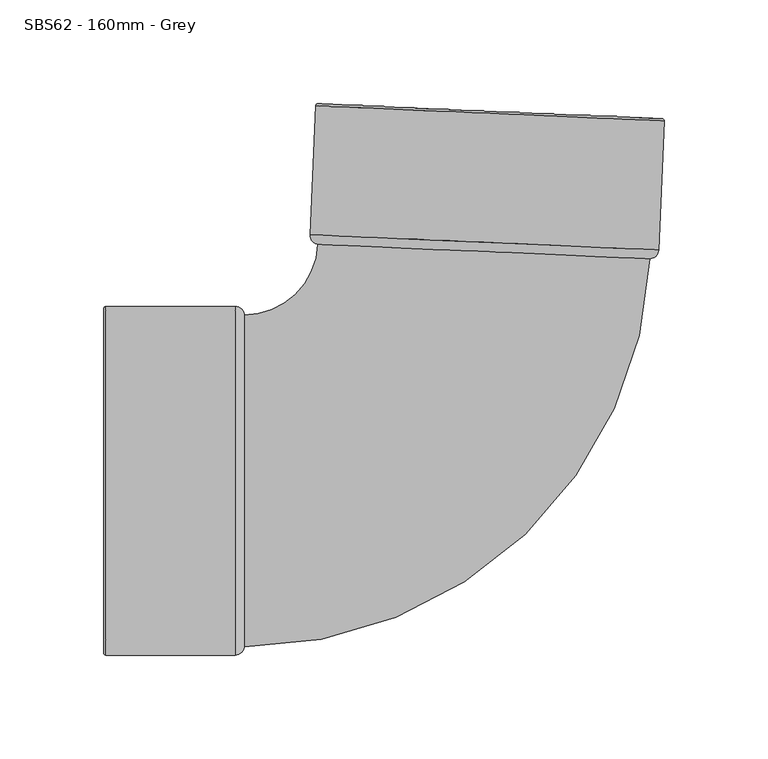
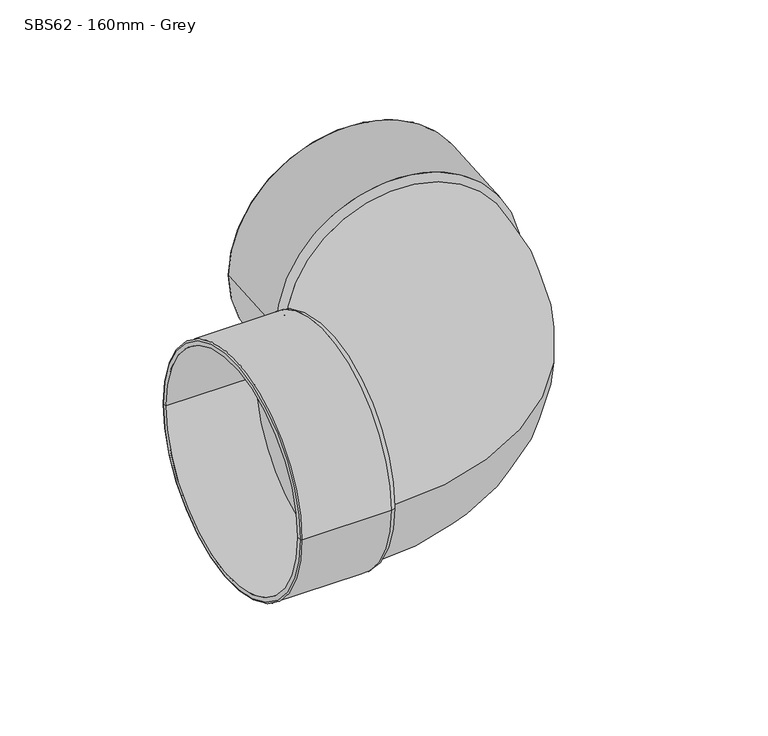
"""IFC4 building model written with IfcOpenShell, lengths in millimetres: pipe fitting geometry, MarleyPlumbingAndDrainage_PipeFitting_DoubleSolventSocket87-5 : SBS62 - 160mm - Grey."""

from ifc_helpers import new_model, si_unit, point, frame, origin, place, context, project, spatial, polyline, circle_curve, ellipse_curve, trimmed, source, transform, mapped, element, save
from ifc_brep_helpers import plane_surface, cylinder_surface, revolved_surface, advanced_brep


def sbs62_160mm_grey_686f7743(model_context):
    return source(origin(), model_context, "Body", "AdvancedBrep", [
        advanced_brep(
        [(-87.1231909, 181.5936193, 0.0), (73.024239, 174.6014315, 0.0), (75.8341634, 174.4787475, 0.0), (-89.9331153, 181.7163032, 0.0), (-89.8799362, 118.4537717, 0.0), (70.2674937, 111.4615839, 0.0), (-9.8062212, 114.9576778, 0.0), (-89.4268421, 113.9297021, 0.0), (69.4218252, 106.9942195, 0.0), (-10.0025085, 110.4619608, 0.0), (-91.0147772, 180.7251426, 0.0), (76.825324, 173.3970855, 0.0), (74.1138294, 111.2936492, 0.0), (-93.7262718, 118.6217063, 0.0)],
        [
            (0, 1, circle_curve(frame((-7.0494759, 178.0975254, 0.0), z_axis=(-0.04361938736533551, -0.9990482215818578, 0.0), x_axis=(0.9990482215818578, -0.04361938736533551, 0.0)), 80.15)),
            (1, 2),
            (2, 3, circle_curve(frame((-7.0494759, 178.0975254, 0.0), z_axis=(0.04361938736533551, 0.9990482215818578, 0.0), x_axis=(0.9990482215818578, -0.04361938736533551, 0.0)), 82.9626013)),
            (3, 0),
            (1, 0, circle_curve(frame((-7.0494759, 178.0975254, 0.0), z_axis=(-0.04361938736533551, -0.9990482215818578, 0.0), x_axis=(0.9990482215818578, -0.04361938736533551, 0.0)), 80.15)),
            (3, 2, circle_curve(frame((-7.0494759, 178.0975254, 0.0), z_axis=(0.04361938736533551, 0.9990482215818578, 0.0), x_axis=(0.9990482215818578, -0.04361938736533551, 0.0)), 82.9626013)),
            (4, 5, circle_curve(frame((-9.8062212, 114.9576778, 0.0), z_axis=(-0.04361938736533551, -0.9990482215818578, 0.0), x_axis=(0.9990482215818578, -0.04361938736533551, 0.0)), 80.15)),
            (5, 1),
            (0, 4),
            (5, 4, circle_curve(frame((-9.8062212, 114.9576778, 0.0), z_axis=(-0.04361938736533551, -0.9990482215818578, 0.0), x_axis=(0.9990482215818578, -0.04361938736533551, 0.0)), 80.15)),
            (6, 5),
            (4, 6),
            (7, 8, circle_curve(frame((-10.0025085, 110.4619608, 0.0), z_axis=(-0.04361938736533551, -0.9990482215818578, 0.0), x_axis=(0.9990482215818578, -0.04361938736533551, 0.0)), 79.5)),
            (8, 9),
            (9, 7),
            (8, 7, circle_curve(frame((-10.0025085, 110.4619608, 0.0), z_axis=(-0.04361938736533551, -0.9990482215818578, 0.0), x_axis=(0.9990482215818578, -0.04361938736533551, 0.0)), 79.5)),
            (10, 11, circle_curve(frame((-7.0947266, 177.0611141, 0.0), z_axis=(-0.04361938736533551, -0.9990482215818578, 0.0), x_axis=(0.9990482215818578, -0.04361938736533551, 0.0)), 84.0)),
            (11, 12),
            (12, 13, circle_curve(frame((-9.8062212, 114.9576778, 0.0), z_axis=(0.04361938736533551, 0.9990482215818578, 0.0), x_axis=(0.9990482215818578, -0.04361938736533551, 0.0)), 84.0)),
            (13, 10),
            (11, 10, circle_curve(frame((-7.0947266, 177.0611141, 0.0), z_axis=(-0.04361938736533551, -0.9990482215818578, 0.0), x_axis=(0.9990482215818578, -0.04361938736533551, 0.0)), 84.0)),
            (13, 12, circle_curve(frame((-9.8062212, 114.9576778, 0.0), z_axis=(0.04361938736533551, 0.9990482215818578, 0.0), x_axis=(0.9990482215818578, -0.04361938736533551, 0.0)), 84.0)),
            (2, 11, circle_curve(frame((75.7889127, 173.4423362, 0.0), z_axis=(0.0, 0.0, -1.0), x_axis=(0.9990482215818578, -0.04361938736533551, 0.0)), 1.0373987)),
            (10, 3, circle_curve(frame((-89.978366, 180.6798919, 0.0), z_axis=(0.0, 0.0, -1.0), x_axis=(-0.9990482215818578, 0.04361938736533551, 0.0)), 1.0373987)),
            (12, 8, circle_curve(frame((69.6181124, 111.4899365, 0.0), z_axis=(0.0, 0.0, -1.0), x_axis=(0.9990482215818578, -0.04361938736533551, 0.0)), 4.5)),
            (7, 13, circle_curve(frame((-89.2305548, 118.4254191, 0.0), z_axis=(0.0, 0.0, -1.0), x_axis=(-0.9990482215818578, 0.04361938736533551, 0.0)), 4.5)),
        ],
        [
            plane_surface(frame((-7.0494759, 178.0975254, 0.0), z_axis=(0.04361938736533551, 0.9990482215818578, 0.0), x_axis=(0.9990482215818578, -0.04361938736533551, 0.0))),
            revolved_surface(polyline([(73.02423901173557, 174.60143150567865, 0.0), (70.2674937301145, 111.4615838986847, 0.0)]), (103.7879636, 2716.6922548, 0.0), (0.04361938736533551, 0.9990482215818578, 0.0)),
            plane_surface(frame((-9.8062212, 114.9576778, 0.0), z_axis=(0.04361938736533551, 0.9990482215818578, 0.0), x_axis=(0.9990482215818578, -0.04361938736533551, 0.0))),
            plane_surface(frame((-10.0025085, 110.4619608, 0.0), z_axis=(-0.04361938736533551, -0.9990482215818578, 0.0), x_axis=(0.9990482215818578, -0.04361938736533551, 0.0))),
            cylinder_surface(frame((103.7879636, 2716.6922548, 0.0), z_axis=(0.04361938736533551, 0.9990482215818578, 0.0), x_axis=(0.9990482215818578, -0.04361938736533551, 0.0)), 84.0),
            revolved_surface(trimmed(ellipse_curve(frame((75.7889127, 173.4423362, 0.0), z_axis=(0.0, 0.0, 1.0), x_axis=(0.9990482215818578, -0.04361938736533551, 0.0)), 1.0373987, 1.0373987), [point((76.825324, 173.3970855, 0.0))], [point((75.8341634, 174.4787475, 0.0))], True, "CARTESIAN"), (103.7879636, 2716.6922548, 0.0), (0.04361938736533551, 0.9990482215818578, 0.0)),
            revolved_surface(trimmed(ellipse_curve(frame((69.6181124, 111.4899365, 0.0), z_axis=(0.0, 0.0, 1.0), x_axis=(0.9990482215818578, -0.04361938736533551, 0.0)), 4.5, 4.5), [point((69.4218252, 106.9942195, 0.0))], [point((74.1138294, 111.2936492, 0.0))], True, "CARTESIAN"), (103.7879636, 2716.6922548, 0.0), (0.04361938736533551, 0.9990482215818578, 0.0)),
        ],
        [
            (0, [[1, 2, 3, 4]]),
            (0, [[5, -4, 6, -2]]),
            (1, [[7, 8, -1, 9]]),
            (1, [[10, -9, -5, -8]]),
            (2, [[11, -7, 12]]),
            (2, [[-12, -10, -11]]),
            (3, [[13, 14, 15]]),
            (3, [[16, -15, -14]]),
            (4, [[17, 18, 19, 20]]),
            (4, [[21, -20, 22, -18]]),
            (5, [[-3, 23, -17, 24]]),
            (5, [[-6, -24, -21, -23]]),
            (6, [[-19, 25, -13, 26]]),
            (6, [[-22, -26, -16, -25]]),
        ],
    ),
        advanced_brep(
        [(-193.0925781, 80.15, 0.0), (-193.0925781, -80.15, 0.0), (-193.0925781, -82.9626013, 0.0), (-193.0925781, 82.9626013, 0.0), (-129.8925781, 80.15, 0.0), (-129.8925781, -80.15, 0.0), (-129.8925781, 0.0, 0.0), (-125.3925781, 79.5, 0.0), (-125.3925781, -79.5, 0.0), (-125.3925781, 0.0, 0.0), (-192.0551794, 84.0, 0.0), (-192.0551794, -84.0, 0.0), (-129.8925781, -84.0, 0.0), (-129.8925781, 84.0, 0.0)],
        [
            (0, 1, circle_curve(frame((-193.0925781, 0.0, 0.0), z_axis=(1.0, 0.0, 0.0), x_axis=(0.0, -1.0, 0.0)), 80.15)),
            (1, 2),
            (2, 3, circle_curve(frame((-193.0925781, 0.0, 0.0), z_axis=(-1.0, 0.0, 0.0), x_axis=(0.0, -1.0, 0.0)), 82.9626013)),
            (3, 0),
            (1, 0, circle_curve(frame((-193.0925781, 0.0, 0.0), z_axis=(1.0, 0.0, 0.0), x_axis=(0.0, -1.0, 0.0)), 80.15)),
            (3, 2, circle_curve(frame((-193.0925781, 0.0, 0.0), z_axis=(-1.0, 0.0, 0.0), x_axis=(0.0, -1.0, 0.0)), 82.9626013)),
            (4, 5, circle_curve(frame((-129.8925781, 0.0, 0.0), z_axis=(1.0, 0.0, 0.0), x_axis=(0.0, -1.0, 0.0)), 80.15)),
            (5, 1),
            (0, 4),
            (5, 4, circle_curve(frame((-129.8925781, 0.0, 0.0), z_axis=(1.0, 0.0, 0.0), x_axis=(0.0, -1.0, 0.0)), 80.15)),
            (6, 5),
            (4, 6),
            (7, 8, circle_curve(frame((-125.3925781, 0.0, 0.0), z_axis=(1.0, 0.0, 0.0), x_axis=(0.0, -1.0, 0.0)), 79.5)),
            (8, 9),
            (9, 7),
            (8, 7, circle_curve(frame((-125.3925781, 0.0, 0.0), z_axis=(1.0, 0.0, 0.0), x_axis=(0.0, -1.0, 0.0)), 79.5)),
            (10, 11, circle_curve(frame((-192.0551794, 0.0, 0.0), z_axis=(1.0, 0.0, 0.0), x_axis=(0.0, -1.0, 0.0)), 84.0)),
            (11, 12),
            (12, 13, circle_curve(frame((-129.8925781, 0.0, 0.0), z_axis=(-1.0, 0.0, 0.0), x_axis=(0.0, -1.0, 0.0)), 84.0)),
            (13, 10),
            (11, 10, circle_curve(frame((-192.0551794, 0.0, 0.0), z_axis=(1.0, 0.0, 0.0), x_axis=(0.0, -1.0, 0.0)), 84.0)),
            (13, 12, circle_curve(frame((-129.8925781, 0.0, 0.0), z_axis=(-1.0, 0.0, 0.0), x_axis=(0.0, -1.0, 0.0)), 84.0)),
            (2, 11, circle_curve(frame((-192.0551794, -82.9626013, 0.0), z_axis=(0.0, 0.0, 1.0), x_axis=(0.0, -1.0, 0.0)), 1.0373987)),
            (10, 3, circle_curve(frame((-192.0551794, 82.9626013, 0.0), z_axis=(0.0, 0.0, 1.0), x_axis=(0.0, 1.0, 0.0)), 1.0373987)),
            (12, 8, circle_curve(frame((-129.8925781, -79.5, 0.0), z_axis=(0.0, 0.0, 1.0), x_axis=(0.0, -1.0, 0.0)), 4.5)),
            (7, 13, circle_curve(frame((-129.8925781, 79.5, 0.0), z_axis=(0.0, 0.0, 1.0), x_axis=(0.0, 1.0, 0.0)), 4.5)),
        ],
        [
            plane_surface(frame((-193.0925781, 0.0, 0.0), z_axis=(-1.0, 0.0, 0.0), x_axis=(0.0, -1.0, 0.0))),
            revolved_surface(polyline([(-193.09257810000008, -80.15, 0.0), (-129.8925780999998, -80.15, 0.0)]), (-2734.1057891, 0.0, 0.0), (-1.0, 0.0, 0.0)),
            plane_surface(frame((-129.8925781, 0.0, 0.0), z_axis=(-1.0, 0.0, 0.0), x_axis=(0.0, -1.0, 0.0))),
            plane_surface(frame((-125.3925781, 0.0, 0.0), z_axis=(1.0, 0.0, 0.0), x_axis=(0.0, -1.0, 0.0))),
            cylinder_surface(frame((-2734.1057891, 0.0, 0.0), z_axis=(-1.0, 0.0, 0.0), x_axis=(0.0, -1.0, 0.0)), 84.0),
            revolved_surface(trimmed(ellipse_curve(frame((-192.0551794, -82.9626013, 0.0), z_axis=(0.0, 0.0, -1.0), x_axis=(0.0, -1.0, 0.0)), 1.0373987, 1.0373987), [point((-192.0551794, -84.0, 0.0))], [point((-193.0925781, -82.9626013, 0.0))], True, "CARTESIAN"), (-2734.1057891, 0.0, 0.0), (-1.0, 0.0, 0.0)),
            revolved_surface(trimmed(ellipse_curve(frame((-129.8925781, -79.5, 0.0), z_axis=(0.0, 0.0, -1.0), x_axis=(0.0, -1.0, 0.0)), 4.5, 4.5), [point((-125.3925781, -79.5, 0.0))], [point((-129.8925781, -84.0, 0.0))], True, "CARTESIAN"), (-2734.1057891, 0.0, 0.0), (-1.0, 0.0, 0.0)),
        ],
        [
            (0, [[1, 2, 3, 4]]),
            (0, [[5, -4, 6, -2]]),
            (1, [[7, 8, -1, 9]]),
            (1, [[10, -9, -5, -8]]),
            (2, [[11, -7, 12]]),
            (2, [[-12, -10, -11]]),
            (3, [[13, 14, 15]]),
            (3, [[16, -15, -14]]),
            (4, [[17, 18, 19, 20]]),
            (4, [[21, -20, 22, -18]]),
            (5, [[-3, 23, -17, 24]]),
            (5, [[-6, -24, -21, -23]]),
            (6, [[-19, 25, -13, 26]]),
            (6, [[-22, -26, -16, -25]]),
        ],
    ),
        advanced_brep(
        [(-125.3925781, -80.0, 0.0), (-125.3925781, 80.0, 0.0), (69.9213493, 106.9724098, 0.0), (-89.9263662, 113.9515117, 0.0)],
        [
            (0, 1, circle_curve(frame((-125.3925781, 0.0, 0.0), z_axis=(-1.0, 0.0, 0.0), x_axis=(0.0, 1.0, 0.0)), 80.0)),
            (1, 0, circle_curve(frame((-125.3925781, 0.0, 0.0), z_axis=(-1.0, 0.0, 0.0), x_axis=(0.0, 1.0, 0.0)), 80.0)),
            (2, 3, circle_curve(frame((-10.0025085, 110.4619608, 0.0), z_axis=(0.0436193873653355, 0.9990482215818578, 0.0), x_axis=(-0.9990482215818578, 0.0436193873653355, 0.0)), 80.0)),
            (3, 2, circle_curve(frame((-10.0025085, 110.4619608, 0.0), z_axis=(0.0436193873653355, 0.9990482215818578, 0.0), x_axis=(-0.9990482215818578, 0.0436193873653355, 0.0)), 80.0)),
            (3, 1, circle_curve(frame((-125.3925781, 115.5, 0.0), z_axis=(0.0, 0.0, -1.0), x_axis=(0.0, -1.0, 0.0)), 35.5)),
            (0, 2, circle_curve(frame((-125.3925781, 115.5, 0.0), z_axis=(0.0, 0.0, 1.0), x_axis=(0.0, -1.0, 0.0)), 195.5)),
        ],
        [
            plane_surface(frame((-125.3925781, 0.0, 0.0), z_axis=(-1.0, 0.0, 0.0), x_axis=(0.0, 0.0, 1.0))),
            plane_surface(frame((-10.0025085, 110.4619608, 0.0), z_axis=(0.04361938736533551, 0.9990482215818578, 0.0), x_axis=(0.0, 0.0, 1.0))),
            revolved_surface(trimmed(ellipse_curve(frame((-125.3925781, 0.0, 0.0), z_axis=(-1.0, 0.0, 0.0), x_axis=(0.0, 1.0, 0.0)), 80.0, 80.0), [point((-125.3925781, -80.0, 0.0))], [point((-125.3925781, 80.0, 0.0))], True, "CARTESIAN"), (-125.3925781, 115.5, 0.0), (0.0, 0.0, 1.0)),
            revolved_surface(trimmed(ellipse_curve(frame((-125.3925781, 0.0, 0.0), z_axis=(-1.0, 0.0, 0.0), x_axis=(0.0, 1.0, 0.0)), 80.0, 80.0), [point((-125.3925781, 80.0, 0.0))], [point((-125.3925781, -80.0, 0.0))], True, "CARTESIAN"), (-125.3925781, 115.5, 0.0), (0.0, 0.0, 1.0)),
        ],
        [
            (0, [[1, 2]]),
            (1, [[3, 4]]),
            (2, [[5, -1, 6, -4]]),
            (3, [[-6, -2, -5, -3]]),
        ],
    ),
    ])


if __name__ == "__main__":
    model = new_model("IFC4")
    model_context = context("Model", 3, world=origin())
    ifc_project = project(units=[si_unit("LENGTHUNIT", "METRE", prefix="MILLI")], contexts=[model_context])
    site = spatial("IfcSite", under=ifc_project)
    building = spatial("IfcBuilding", under=site)
    placement = place(None, origin())
    sbs62_160mm_grey_shape = sbs62_160mm_grey_686f7743(model_context)
    element("IfcPipeFitting", 1, ObjectType="MarleyPlumbingAndDrainage_PipeFitting_DoubleSolventSocket87-5 : SBS62 - 160mm - Grey", at=placement, inside=building, context=model_context, shape_type="MappedRepresentation", body=[
        mapped(sbs62_160mm_grey_shape, transform((0.0, 0.0, 0.0), x_axis=(1.0, 0.0, 0.0), y_axis=(0.0, 1.0, 0.0), z_axis=(0.0, 0.0, 1.0))),
    ])
    save(model, "model.ifc")
